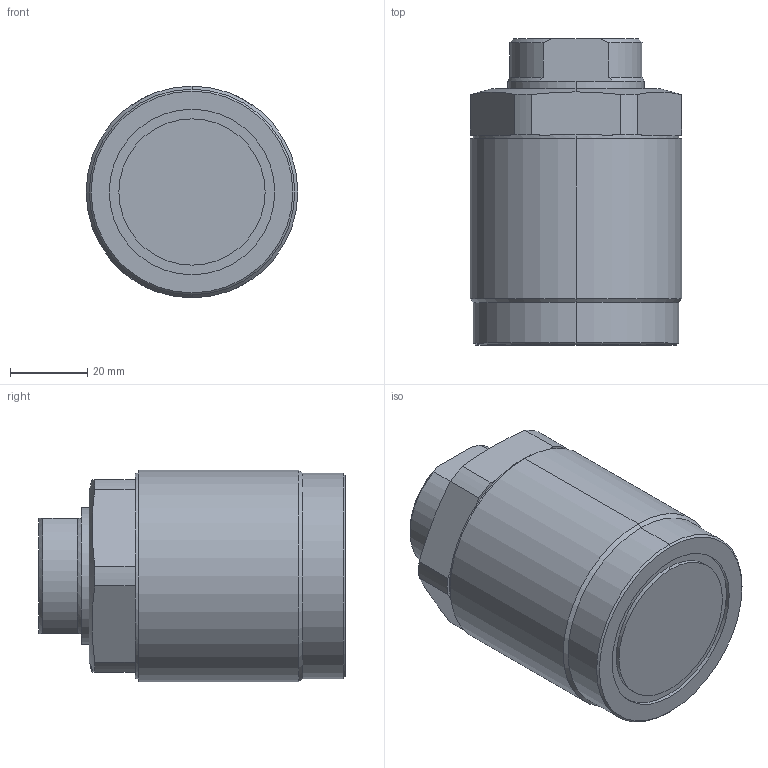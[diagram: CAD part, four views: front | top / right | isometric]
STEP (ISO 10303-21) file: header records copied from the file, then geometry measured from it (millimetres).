
FILE_DESCRIPTION (( 'STEP AP203' ), '1' );
FILE_NAME ('T03C-M556-M threaded pusher.STEP', '2022-07-09T17:45:36', ( '' ), ( '' ), 'SwSTEP 2.0', 'SolidWorks 2017', '' );
FILE_SCHEMA (( 'CONFIG_CONTROL_DESIGN' ));
Length unit declared in the file: millimetre
Products named in the file (3): T03C-M556-M part-1; T03C-M556-M part-2; T03C-M556-M threaded pusher
Assembly tree (2 placements, depth 2):
  T03C-M556-M threaded pusher
    T03C-M556-M part-1
    T03C-M556-M part-2
Bounding box: 55 x 79.5 x 55 mm (x, y, z)
Volume: 194089.2 mm3; surface area: 23420.1 mm2
Topology: 2 solids, 2 shells, 261 faces, 693 edges, 457 vertices
Faces by surface type: plane 138, bspline 87, cylinder 22, cone 14
Entity records: 12873 total; most frequent: CARTESIAN_POINT 6788, ORIENTED_EDGE 1382, DIRECTION 861, EDGE_CURVE 691, VERTEX_POINT 457, VECTOR 371, LINE 371, EDGE_LOOP 284
